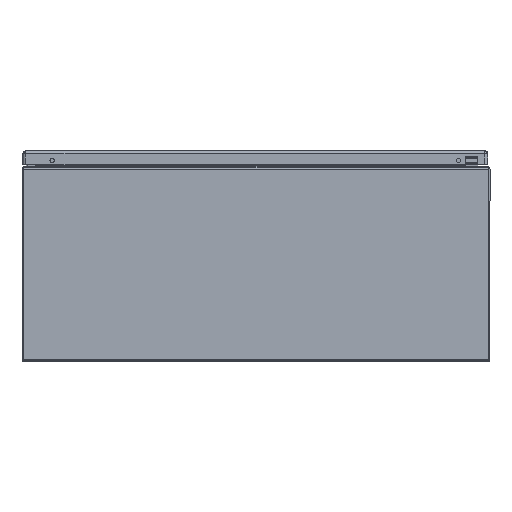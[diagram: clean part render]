
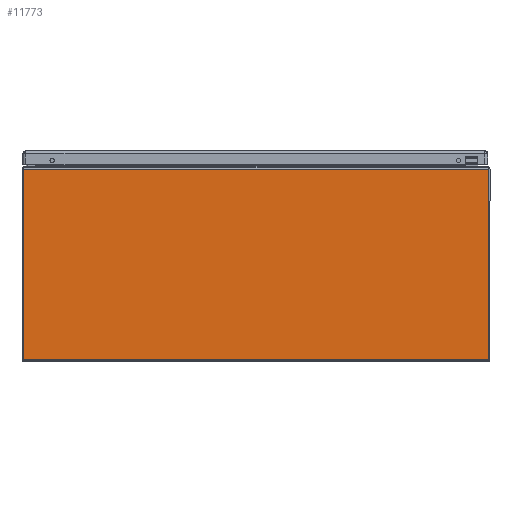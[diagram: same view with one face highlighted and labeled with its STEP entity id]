
A CAD part, front view. The second image highlights one B-rep face of the part: STEP entity #11773.
In plain terms, the highlighted planar face has unit normal (0, -1, 0).
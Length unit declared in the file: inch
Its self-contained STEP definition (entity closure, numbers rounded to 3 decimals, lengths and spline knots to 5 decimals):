
#2050 = VECTOR ( 'NONE', #4083, 39.37008 ) ;
#2054 = LINE ( 'NONE', #4082, #2050 ) ;
#2115 = LINE ( 'NONE', #10623, #2119 ) ;
#2119 = VECTOR ( 'NONE', #10624, 39.37008 ) ;
#2136 = LINE ( 'NONE', #10644, #2137 ) ;
#2137 = VECTOR ( 'NONE', #10645, 39.37008 ) ;
#2143 = LINE ( 'NONE', #10652, #2144 ) ;
#2144 = VECTOR ( 'NONE', #10653, 39.37008 ) ;
#2868 = ORIENTED_EDGE ( 'NONE', *, *, #39930, .T. ) ;
#2869 = ORIENTED_EDGE ( 'NONE', *, *, #39950, .F. ) ;
#2870 = ORIENTED_EDGE ( 'NONE', *, *, #39862, .T. ) ;
#2871 = ORIENTED_EDGE ( 'NONE', *, *, #39959, .T. ) ;
#4082 = CARTESIAN_POINT ( 'NONE',  ( -11.93793, -15., 9.855 ) ) ;
#4083 = DIRECTION ( 'NONE',  ( 0., 0., -1. ) ) ;
#10623 = CARTESIAN_POINT ( 'NONE',  ( 11.93793, -15., 9.855 ) ) ;
#10624 = DIRECTION ( 'NONE',  ( 0., 0., 1. ) ) ;
#10644 = CARTESIAN_POINT ( 'NONE',  ( -162., -15., 9.855 ) ) ;
#10645 = DIRECTION ( 'NONE',  ( 1., 0., 0. ) ) ;
#10652 = CARTESIAN_POINT ( 'NONE',  ( -162., -15., 0.106 ) ) ;
#10653 = DIRECTION ( 'NONE',  ( 1., 0., 0. ) ) ;
#11773 = ADVANCED_FACE ( 'NONE', ( #37269 ), #41753, .T. ) ;
#13937 = VERTEX_POINT ( 'NONE', #34413 ) ;
#13939 = VERTEX_POINT ( 'NONE', #34415 ) ;
#13970 = VERTEX_POINT ( 'NONE', #34446 ) ;
#13977 = VERTEX_POINT ( 'NONE', #34453 ) ;
#14065 = AXIS2_PLACEMENT_3D ( 'NONE', #41746, #41758, #41759 ) ;
#28072 = EDGE_LOOP ( 'NONE', ( #2868, #2869, #2870, #2871 ) ) ;
#34413 = CARTESIAN_POINT ( 'NONE',  ( 11.93793, -15., 0.106 ) ) ;
#34415 = CARTESIAN_POINT ( 'NONE',  ( 11.93793, -15., 9.855 ) ) ;
#34446 = CARTESIAN_POINT ( 'NONE',  ( -11.93793, -15., 9.855 ) ) ;
#34453 = CARTESIAN_POINT ( 'NONE',  ( -11.93793, -15., 0.106 ) ) ;
#37269 = FACE_OUTER_BOUND ( 'NONE', #28072, .T. ) ;
#39862 = EDGE_CURVE ( 'NONE', #13970, #13977, #2054, .T. ) ;
#39930 = EDGE_CURVE ( 'NONE', #13937, #13939, #2115, .T. ) ;
#39950 = EDGE_CURVE ( 'NONE', #13970, #13939, #2136, .T. ) ;
#39959 = EDGE_CURVE ( 'NONE', #13977, #13937, #2143, .T. ) ;
#41746 = CARTESIAN_POINT ( 'NONE',  ( -162., -15., 9.855 ) ) ;
#41753 = PLANE ( 'NONE',  #14065 ) ;
#41758 = DIRECTION ( 'NONE',  ( 0., -1., 0. ) ) ;
#41759 = DIRECTION ( 'NONE',  ( 0., 0., -1. ) ) ;
